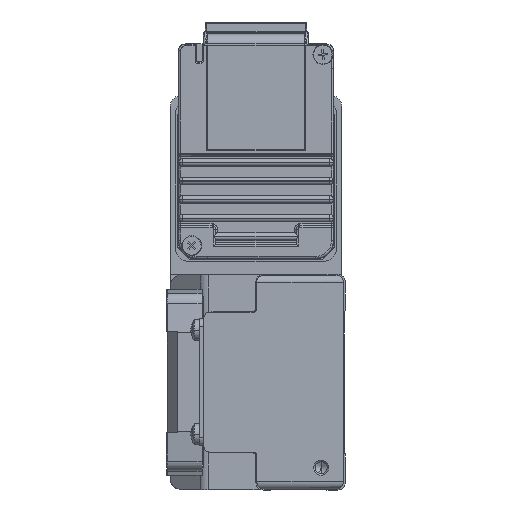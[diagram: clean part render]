
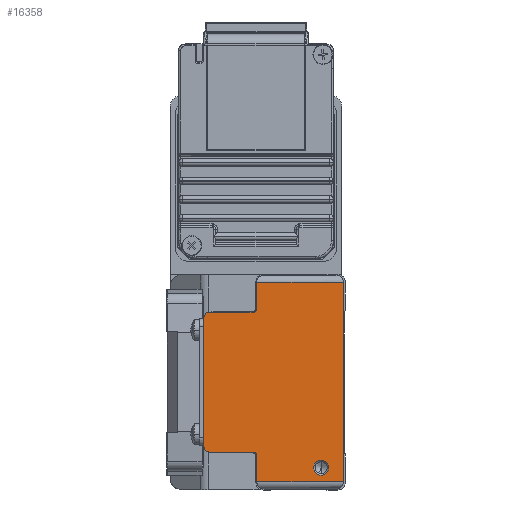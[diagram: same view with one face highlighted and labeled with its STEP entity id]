
A CAD part, left-side view. The second image highlights one B-rep face of the part: STEP entity #16358.
In plain terms, the highlighted planar face has unit normal (-1, 0, 0) as drawn and (0, 0, 1) by its records, which use the part's own axes.
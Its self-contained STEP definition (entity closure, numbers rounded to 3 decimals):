
#266 = VERTEX_POINT ( 'NONE', #3724 ) ;
#763 = EDGE_CURVE ( 'NONE', #40542, #33066, #29906, .T. ) ;
#1126 = LINE ( 'NONE', #1606, #22451 ) ;
#1321 = CARTESIAN_POINT ( 'NONE',  ( -18.8, 36.5, 370. ) ) ;
#1606 = CARTESIAN_POINT ( 'NONE',  ( 26.8, 24., 370. ) ) ;
#1618 = DIRECTION ( 'NONE',  ( 0., 0., 1. ) ) ;
#2099 = CARTESIAN_POINT ( 'NONE',  ( -18.8, 36.5, 370. ) ) ;
#2584 = ORIENTED_EDGE ( 'NONE', *, *, #5649, .T. ) ;
#2721 = ORIENTED_EDGE ( 'NONE', *, *, #28029, .T. ) ;
#2749 = DIRECTION ( 'NONE',  ( 0., -1., 0. ) ) ;
#3099 = LINE ( 'NONE', #13411, #35825 ) ;
#3724 = CARTESIAN_POINT ( 'NONE',  ( -26.8, 0.5, 370. ) ) ;
#3756 = CARTESIAN_POINT ( 'NONE',  ( 18.8, 36.5, 370. ) ) ;
#3968 = ORIENTED_EDGE ( 'NONE', *, *, #10561, .T. ) ;
#5066 = FACE_BOUND ( 'NONE', #7515, .T. ) ;
#5649 = EDGE_CURVE ( 'NONE', #8400, #266, #41761, .T. ) ;
#6092 = ORIENTED_EDGE ( 'NONE', *, *, #16631, .T. ) ;
#6167 = DIRECTION ( 'NONE',  ( -1., 0., 0. ) ) ;
#6261 = VERTEX_POINT ( 'NONE', #1321 ) ;
#6319 = DIRECTION ( 'NONE',  ( 0., 0., 1. ) ) ;
#6393 = DIRECTION ( 'NONE',  ( 0., 0., -1. ) ) ;
#6611 = DIRECTION ( 'NONE',  ( -1., 0., 0. ) ) ;
#7319 = EDGE_CURVE ( 'NONE', #17742, #42765, #22582, .T. ) ;
#7515 = EDGE_LOOP ( 'NONE', ( #9226, #6092 ) ) ;
#7585 = CIRCLE ( 'NONE', #30901, 1. ) ;
#7789 = CARTESIAN_POINT ( 'NONE',  ( -18.8, 24.8, 370. ) ) ;
#8400 = VERTEX_POINT ( 'NONE', #38158 ) ;
#8699 = CARTESIAN_POINT ( 'NONE',  ( 19.8, 23.8, 370. ) ) ;
#9157 = PLANE ( 'NONE',  #32917 ) ;
#9226 = ORIENTED_EDGE ( 'NONE', *, *, #763, .T. ) ;
#10220 = AXIS2_PLACEMENT_3D ( 'NONE', #44965, #6393, #6167 ) ;
#10286 = VECTOR ( 'NONE', #32417, 1000. ) ;
#10561 = EDGE_CURVE ( 'NONE', #17742, #17063, #3099, .T. ) ;
#11551 = ORIENTED_EDGE ( 'NONE', *, *, #19276, .T. ) ;
#12570 = DIRECTION ( 'NONE',  ( 0., 0., -1. ) ) ;
#13108 = CARTESIAN_POINT ( 'NONE',  ( -25., 6.5, 370. ) ) ;
#13411 = CARTESIAN_POINT ( 'NONE',  ( 18.8, 24.8, 370. ) ) ;
#13821 = AXIS2_PLACEMENT_3D ( 'NONE', #40425, #21972, #23821 ) ;
#15371 = CARTESIAN_POINT ( 'NONE',  ( -19.8, 23.8, 370. ) ) ;
#15524 = EDGE_CURVE ( 'NONE', #17063, #28884, #42307, .T. ) ;
#15573 = DIRECTION ( 'NONE',  ( 1., 0., 0. ) ) ;
#15714 = EDGE_CURVE ( 'NONE', #28884, #34948, #43649, .T. ) ;
#15798 = DIRECTION ( 'NONE',  ( 1., 0., 0. ) ) ;
#15890 = VECTOR ( 'NONE', #20770, 1000. ) ;
#16358 = ADVANCED_FACE ( 'NONE', ( #5066, #40458 ), #9157, .T. ) ;
#16434 = CARTESIAN_POINT ( 'NONE',  ( 26.8, 23.8, 370. ) ) ;
#16631 = EDGE_CURVE ( 'NONE', #33066, #40542, #33698, .T. ) ;
#17063 = VERTEX_POINT ( 'NONE', #3756 ) ;
#17742 = VERTEX_POINT ( 'NONE', #34617 ) ;
#18578 = LINE ( 'NONE', #2099, #26845 ) ;
#19276 = EDGE_CURVE ( 'NONE', #34948, #6261, #43992, .T. ) ;
#19462 = CARTESIAN_POINT ( 'NONE',  ( -19.8, 24.8, 370. ) ) ;
#19704 = DIRECTION ( 'NONE',  ( 0., 0., 1. ) ) ;
#20770 = DIRECTION ( 'NONE',  ( 0., -1., 0. ) ) ;
#21401 = ORIENTED_EDGE ( 'NONE', *, *, #7319, .F. ) ;
#21961 = VERTEX_POINT ( 'NONE', #7789 ) ;
#21972 = DIRECTION ( 'NONE',  ( 0., 0., 1. ) ) ;
#22173 = EDGE_CURVE ( 'NONE', #39530, #36777, #1126, .T. ) ;
#22451 = VECTOR ( 'NONE', #26522, 1000. ) ;
#22455 = CARTESIAN_POINT ( 'NONE',  ( -17.3, 36.5, 370. ) ) ;
#22582 = CIRCLE ( 'NONE', #32021, 1. ) ;
#22930 = CARTESIAN_POINT ( 'NONE',  ( -17.3, 38., 370. ) ) ;
#23104 = CARTESIAN_POINT ( 'NONE',  ( -26.8, 21.8, 370. ) ) ;
#23283 = LINE ( 'NONE', #16434, #24513 ) ;
#23821 = DIRECTION ( 'NONE',  ( 1., 0., 0. ) ) ;
#23928 = EDGE_CURVE ( 'NONE', #266, #36777, #43846, .T. ) ;
#24083 = ORIENTED_EDGE ( 'NONE', *, *, #22173, .F. ) ;
#24308 = AXIS2_PLACEMENT_3D ( 'NONE', #22455, #26122, #36352 ) ;
#24513 = VECTOR ( 'NONE', #6611, 1000. ) ;
#25326 = ORIENTED_EDGE ( 'NONE', *, *, #31776, .T. ) ;
#26051 = CARTESIAN_POINT ( 'NONE',  ( -26.8, 0.5, 370. ) ) ;
#26122 = DIRECTION ( 'NONE',  ( 0., 0., 1. ) ) ;
#26522 = DIRECTION ( 'NONE',  ( 0., -1., 0. ) ) ;
#26730 = CARTESIAN_POINT ( 'NONE',  ( -19.8, 23.8, 370. ) ) ;
#26777 = EDGE_CURVE ( 'NONE', #42824, #21961, #7585, .T. ) ;
#26845 = VECTOR ( 'NONE', #2749, 1000. ) ;
#28029 = EDGE_CURVE ( 'NONE', #39530, #42765, #23283, .T. ) ;
#28884 = VERTEX_POINT ( 'NONE', #40916 ) ;
#29731 = VECTOR ( 'NONE', #32011, 1000. ) ;
#29906 = CIRCLE ( 'NONE', #10220, 2. ) ;
#30901 = AXIS2_PLACEMENT_3D ( 'NONE', #19462, #1618, #15573 ) ;
#30967 = ORIENTED_EDGE ( 'NONE', *, *, #26777, .F. ) ;
#31776 = EDGE_CURVE ( 'NONE', #42824, #8400, #43227, .T. ) ;
#32011 = DIRECTION ( 'NONE',  ( -1., 0., 0. ) ) ;
#32021 = AXIS2_PLACEMENT_3D ( 'NONE', #40823, #6319, #37805 ) ;
#32227 = AXIS2_PLACEMENT_3D ( 'NONE', #40180, #12570, #32863 ) ;
#32417 = DIRECTION ( 'NONE',  ( 1., 0., 0. ) ) ;
#32714 = EDGE_CURVE ( 'NONE', #6261, #21961, #18578, .T. ) ;
#32776 = ORIENTED_EDGE ( 'NONE', *, *, #15524, .T. ) ;
#32863 = DIRECTION ( 'NONE',  ( -1., 0., 0. ) ) ;
#32917 = AXIS2_PLACEMENT_3D ( 'NONE', #23104, #19704, #15798 ) ;
#33066 = VERTEX_POINT ( 'NONE', #40429 ) ;
#33347 = CARTESIAN_POINT ( 'NONE',  ( 17.3, 38., 370. ) ) ;
#33528 = CARTESIAN_POINT ( 'NONE',  ( 26.8, 0.5, 370. ) ) ;
#33594 = ORIENTED_EDGE ( 'NONE', *, *, #32714, .T. ) ;
#33698 = CIRCLE ( 'NONE', #32227, 2. ) ;
#34615 = DIRECTION ( 'NONE',  ( 0., 1., 0. ) ) ;
#34617 = CARTESIAN_POINT ( 'NONE',  ( 18.8, 24.8, 370. ) ) ;
#34948 = VERTEX_POINT ( 'NONE', #22930 ) ;
#35004 = ORIENTED_EDGE ( 'NONE', *, *, #23928, .T. ) ;
#35007 = VECTOR ( 'NONE', #36563, 1000. ) ;
#35673 = ORIENTED_EDGE ( 'NONE', *, *, #15714, .T. ) ;
#35825 = VECTOR ( 'NONE', #34615, 1000. ) ;
#36352 = DIRECTION ( 'NONE',  ( 1., 0., 0. ) ) ;
#36563 = DIRECTION ( 'NONE',  ( -1., 0., 0. ) ) ;
#36777 = VERTEX_POINT ( 'NONE', #33528 ) ;
#37102 = CARTESIAN_POINT ( 'NONE',  ( 26.8, 23.8, 370. ) ) ;
#37805 = DIRECTION ( 'NONE',  ( 1., 0., 0. ) ) ;
#38068 = CARTESIAN_POINT ( 'NONE',  ( -26.8, 24., 370. ) ) ;
#38158 = CARTESIAN_POINT ( 'NONE',  ( -26.8, 23.8, 370. ) ) ;
#39530 = VERTEX_POINT ( 'NONE', #37102 ) ;
#40180 = CARTESIAN_POINT ( 'NONE',  ( -23., 6.5, 370. ) ) ;
#40425 = CARTESIAN_POINT ( 'NONE',  ( 17.3, 36.5, 370. ) ) ;
#40429 = CARTESIAN_POINT ( 'NONE',  ( -21., 6.5, 370. ) ) ;
#40458 = FACE_OUTER_BOUND ( 'NONE', #40586, .T. ) ;
#40542 = VERTEX_POINT ( 'NONE', #13108 ) ;
#40586 = EDGE_LOOP ( 'NONE', ( #33594, #30967, #25326, #2584, #35004, #24083, #2721, #21401, #3968, #32776, #35673, #11551 ) ) ;
#40823 = CARTESIAN_POINT ( 'NONE',  ( 19.8, 24.8, 370. ) ) ;
#40916 = CARTESIAN_POINT ( 'NONE',  ( 17.3, 38., 370. ) ) ;
#41761 = LINE ( 'NONE', #38068, #15890 ) ;
#42307 = CIRCLE ( 'NONE', #13821, 1.5 ) ;
#42765 = VERTEX_POINT ( 'NONE', #8699 ) ;
#42824 = VERTEX_POINT ( 'NONE', #26730 ) ;
#43227 = LINE ( 'NONE', #15371, #29731 ) ;
#43649 = LINE ( 'NONE', #33347, #35007 ) ;
#43846 = LINE ( 'NONE', #26051, #10286 ) ;
#43992 = CIRCLE ( 'NONE', #24308, 1.5 ) ;
#44965 = CARTESIAN_POINT ( 'NONE',  ( -23., 6.5, 370. ) ) ;
